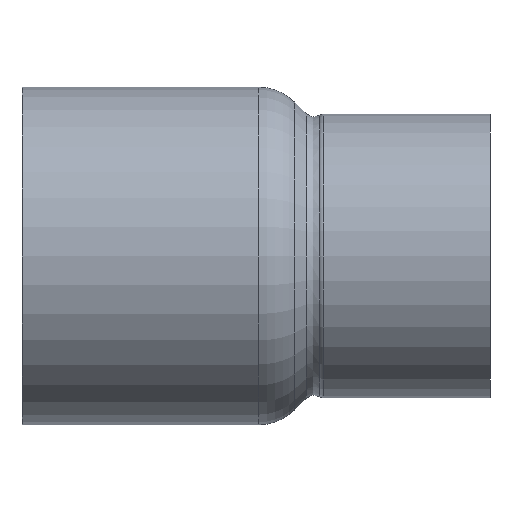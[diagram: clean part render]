
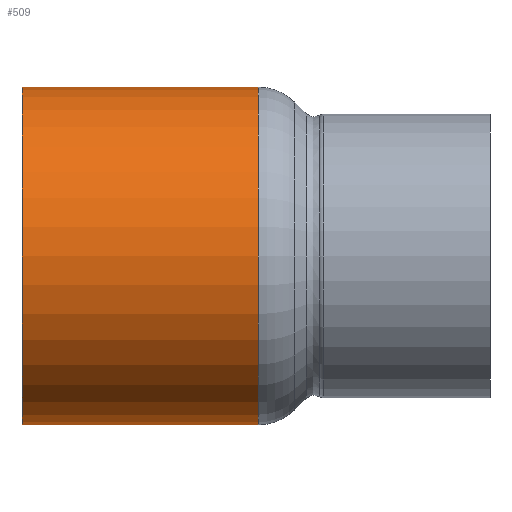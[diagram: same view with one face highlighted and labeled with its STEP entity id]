
A CAD part, front view. The second image highlights one B-rep face of the part: STEP entity #509.
In plain terms, the highlighted cylindrical face has radius 11 mm (diameter 22 mm), a full revolution.
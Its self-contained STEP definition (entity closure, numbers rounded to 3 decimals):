
#84=CARTESIAN_POINT('',(15.4,11.,0.0));
#85=VERTEX_POINT('',#84);
#86=CARTESIAN_POINT('',(15.4,0.0,0.0));
#87=DIRECTION('',(1.0,0.0,0.0));
#88=DIRECTION('',(0.0,1.0,0.0));
#89=AXIS2_PLACEMENT_3D('',#86,#87,#88);
#90=CIRCLE('',#89,11.);
#91=EDGE_CURVE('',#85,#85,#90,.T.);
#483=CARTESIAN_POINT('',(0.,11.,0.0));
#484=VERTEX_POINT('',#483);
#485=CARTESIAN_POINT('',(0.,0.0,0.0));
#486=DIRECTION('',(1.0,0.0,0.0));
#487=DIRECTION('',(0.0,1.0,0.0));
#488=AXIS2_PLACEMENT_3D('',#485,#486,#487);
#489=CIRCLE('',#488,11.);
#490=EDGE_CURVE('',#484,#484,#489,.T.);
#498=CARTESIAN_POINT('',(7.7,0.0,0.0));
#499=DIRECTION('',(1.0,0.0,0.0));
#500=DIRECTION('',(0.0,1.0,0.0));
#501=AXIS2_PLACEMENT_3D('',#498,#499,#500);
#502=CYLINDRICAL_SURFACE('',#501,11.);
#503=ORIENTED_EDGE('',*,*,#91,.F.);
#504=EDGE_LOOP('',(#503));
#505=FACE_OUTER_BOUND('',#504,.T.);
#506=ORIENTED_EDGE('',*,*,#490,.T.);
#507=EDGE_LOOP('',(#506));
#508=FACE_BOUND('',#507,.T.);
#509=ADVANCED_FACE('',(#505,#508),#502,.T.);
